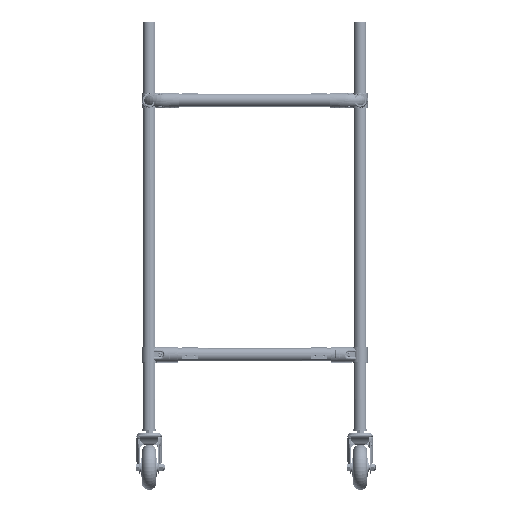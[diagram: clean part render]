
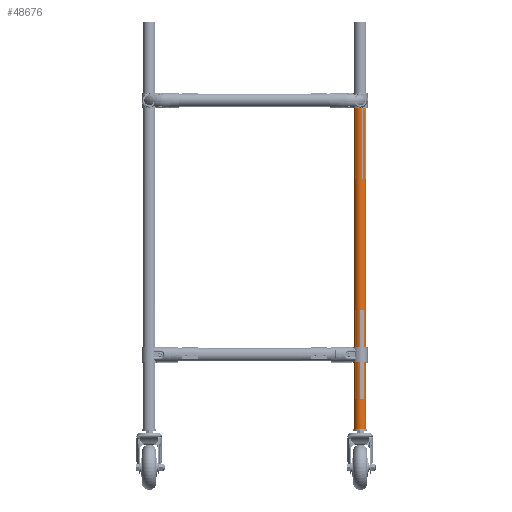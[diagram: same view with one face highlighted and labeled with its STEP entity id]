
A CAD part, top view. The second image highlights one B-rep face of the part: STEP entity #48676.
In plain terms, the highlighted cylindrical face has radius 14 mm (diameter 28 mm), a partial arc.
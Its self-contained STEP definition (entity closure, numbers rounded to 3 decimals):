
#418 = VERTEX_POINT ( 'NONE', #96576 ) ;
#1061 = ORIENTED_EDGE ( 'NONE', *, *, #14778, .F. ) ;
#1508 = DIRECTION ( 'NONE',  ( 0., 0., 1. ) ) ;
#3435 = DIRECTION ( 'NONE',  ( 0., 0., -1. ) ) ;
#3973 = DIRECTION ( 'NONE',  ( -1., 0., 0. ) ) ;
#4392 = DIRECTION ( 'NONE',  ( 0., 0., -1. ) ) ;
#8855 = CARTESIAN_POINT ( 'NONE',  ( 14., 0., 375. ) ) ;
#13168 = ORIENTED_EDGE ( 'NONE', *, *, #36743, .T. ) ;
#13962 = CIRCLE ( 'NONE', #76817, 14. ) ;
#14382 = CARTESIAN_POINT ( 'NONE',  ( -14., 0., -375. ) ) ;
#14778 = EDGE_CURVE ( 'NONE', #20688, #418, #15779, .T. ) ;
#15779 = LINE ( 'NONE', #8855, #60907 ) ;
#20688 = VERTEX_POINT ( 'NONE', #53518 ) ;
#25589 = AXIS2_PLACEMENT_3D ( 'NONE', #70428, #3435, #3973 ) ;
#26962 = DIRECTION ( 'NONE',  ( 1., 0., 0. ) ) ;
#29587 = EDGE_CURVE ( 'NONE', #33338, #20688, #13962, .T. ) ;
#32501 = CARTESIAN_POINT ( 'NONE',  ( -14., 0., 375. ) ) ;
#33338 = VERTEX_POINT ( 'NONE', #32501 ) ;
#35591 = AXIS2_PLACEMENT_3D ( 'NONE', #42975, #1508, #26962 ) ;
#35766 = CARTESIAN_POINT ( 'NONE',  ( -14., 0., 375. ) ) ;
#36271 = EDGE_LOOP ( 'NONE', ( #1061, #41313, #13168, #87631 ) ) ;
#36743 = EDGE_CURVE ( 'NONE', #33338, #95267, #101185, .T. ) ;
#38011 = CYLINDRICAL_SURFACE ( 'NONE', #25589, 14. ) ;
#41313 = ORIENTED_EDGE ( 'NONE', *, *, #29587, .F. ) ;
#42510 = DIRECTION ( 'NONE',  ( 0., 0., 1. ) ) ;
#42975 = CARTESIAN_POINT ( 'NONE',  ( 0., 0., -375. ) ) ;
#43050 = CARTESIAN_POINT ( 'NONE',  ( 0., 0., 375. ) ) ;
#47721 = DIRECTION ( 'NONE',  ( 0., 0., -1. ) ) ;
#48676 = ADVANCED_FACE ( 'NONE', ( #76291 ), #38011, .T. ) ;
#49204 = CIRCLE ( 'NONE', #35591, 14. ) ;
#53518 = CARTESIAN_POINT ( 'NONE',  ( 14., 0., 375. ) ) ;
#60907 = VECTOR ( 'NONE', #47721, 1000. ) ;
#63278 = EDGE_CURVE ( 'NONE', #95267, #418, #49204, .T. ) ;
#68908 = VECTOR ( 'NONE', #4392, 1000. ) ;
#70428 = CARTESIAN_POINT ( 'NONE',  ( 0., 0., 375. ) ) ;
#75979 = DIRECTION ( 'NONE',  ( 1., 0., 0. ) ) ;
#76291 = FACE_OUTER_BOUND ( 'NONE', #36271, .T. ) ;
#76817 = AXIS2_PLACEMENT_3D ( 'NONE', #43050, #42510, #75979 ) ;
#87631 = ORIENTED_EDGE ( 'NONE', *, *, #63278, .T. ) ;
#95267 = VERTEX_POINT ( 'NONE', #14382 ) ;
#96576 = CARTESIAN_POINT ( 'NONE',  ( 14., 0., -375. ) ) ;
#101185 = LINE ( 'NONE', #35766, #68908 ) ;
